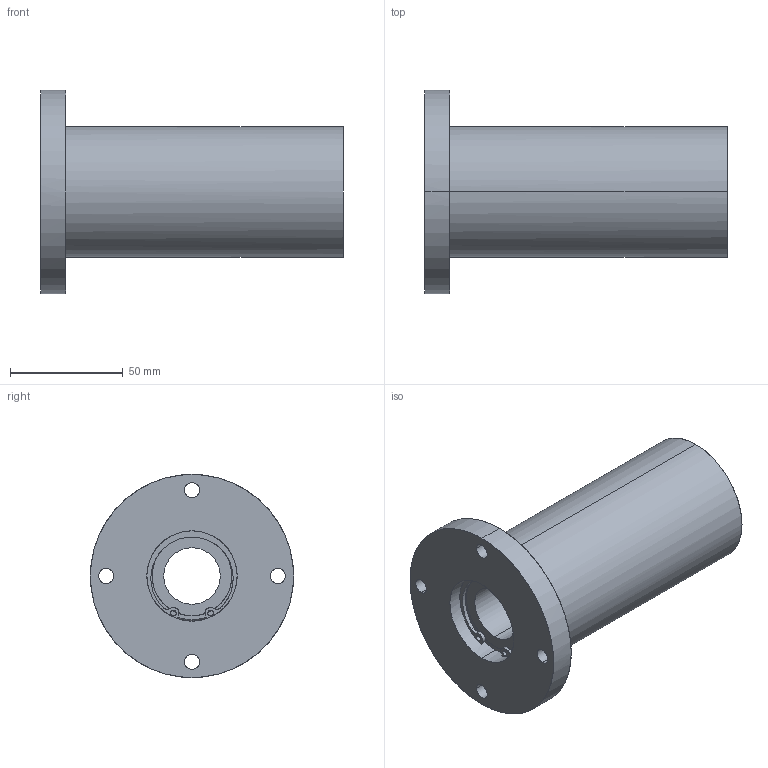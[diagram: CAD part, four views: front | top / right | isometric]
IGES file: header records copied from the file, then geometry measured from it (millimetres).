
Global section: file name: No Iges File Name specified; native system: AutoDesk Inventor R10; preprocessor: AutoDesk Inventor Iges Exporter R10; author: No Author specified; organization: No Organization specified; date: 20101214.134744; units: millimetre
Bounding box: 134 x 90 x 90 mm (x, y, z)
Surface area: 54691.5 mm2 (no closed solid volume)
Topology: 0 solids, 0 shells, 111 faces, 844 edges, 844 vertices
Faces by surface type: bspline 111
